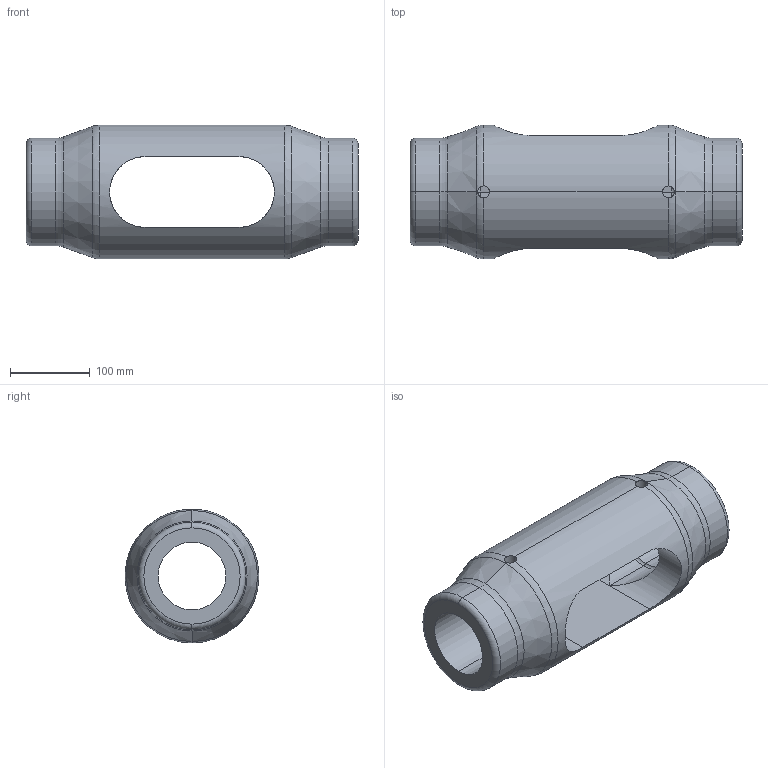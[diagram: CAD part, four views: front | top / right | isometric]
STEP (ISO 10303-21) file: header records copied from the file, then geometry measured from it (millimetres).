
FILE_DESCRIPTION (( 'STEP AP203' ), '1' );
FILE_NAME ('Kreuzmuffe M85.STEP', '2018-03-14T05:23:27', ( 'install' ), ( 'Hewlett-Packard Company' ), 'SwSTEP 2.0', 'SolidWorks 2017', '' );
FILE_SCHEMA (( 'CONFIG_CONTROL_DESIGN' ));
Length unit declared in the file: millimetre
Products named in the file (1): Kreuzmuffe M85
Bounding box: 417 x 167.9 x 168 mm (x, y, z)
Volume: 4203153.3 mm3; surface area: 319048.6 mm2
Topology: 1 solids, 1 shells, 46 faces, 108 edges, 58 vertices
Faces by surface type: cylinder 22, torus 16, cone 4, plane 4
Entity records: 1963 total; most frequent: CARTESIAN_POINT 845, DIRECTION 228, ORIENTED_EDGE 216, EDGE_CURVE 108, AXIS2_PLACEMENT_3D 97, VERTEX_POINT 58, EDGE_LOOP 50, CIRCLE 50
